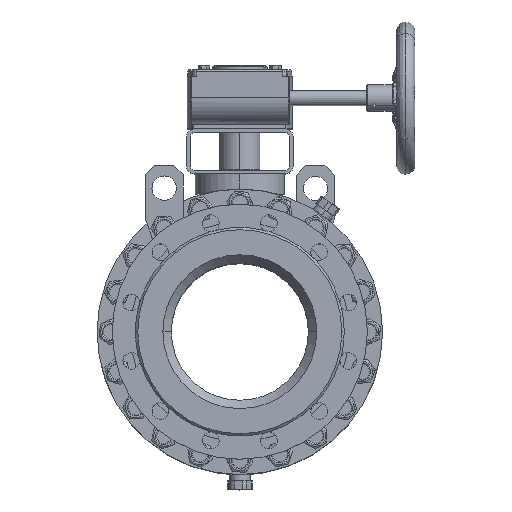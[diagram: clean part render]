
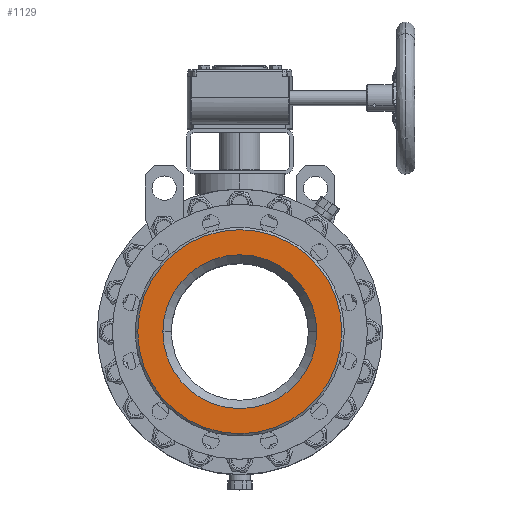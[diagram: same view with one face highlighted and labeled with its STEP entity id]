
A CAD part, top view. The second image highlights one B-rep face of the part: STEP entity #1129.
In plain terms, the highlighted planar face has unit normal (0, 0, 1).
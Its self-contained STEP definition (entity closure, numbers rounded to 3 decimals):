
#1129=ADVANCED_FACE('',(#4650,#4652),#4654,.T.);
#4650=FACE_BOUND('',#4651,.T.);
#4651=EDGE_LOOP('',(#49044,#49045));
#4652=FACE_OUTER_BOUND('',#4653,.T.);
#4653=EDGE_LOOP('',(#49046,#49047));
#4654=PLANE('',#4655);
#4655=AXIS2_PLACEMENT_3D('',#4656,#4657,#4658);
#4656=CARTESIAN_POINT('',(0.,0.,226.));
#4657=DIRECTION('',(0.,0.,1.));
#4658=DIRECTION('',(1.,0.,0.));
#49044=ORIENTED_EDGE('',*,*,#56583,.F.);
#49045=ORIENTED_EDGE('',*,*,#56584,.F.);
#49046=ORIENTED_EDGE('',*,*,#56585,.T.);
#49047=ORIENTED_EDGE('',*,*,#56586,.T.);
#56583=EDGE_CURVE('',#61227,#61228,#61229,.T.);
#56584=EDGE_CURVE('',#61228,#61227,#61230,.T.);
#56585=EDGE_CURVE('',#61231,#61232,#61233,.T.);
#56586=EDGE_CURVE('',#61232,#61231,#61234,.T.);
#61227=VERTEX_POINT('',#69942);
#61228=VERTEX_POINT('',#69943);
#61229=CIRCLE('',#69944,101.);
#61230=CIRCLE('',#69948,101.);
#61231=VERTEX_POINT('',#69952);
#61232=VERTEX_POINT('',#69953);
#61233=CIRCLE('',#69954,134.);
#61234=CIRCLE('',#69958,134.);
#69942=CARTESIAN_POINT('',(101.,0.,226.));
#69943=CARTESIAN_POINT('',(-101.,0.,226.));
#69944=AXIS2_PLACEMENT_3D('',#69945,#69946,#69947);
#69945=CARTESIAN_POINT('',(0.,0.,226.));
#69946=DIRECTION('',(0.,0.,1.));
#69947=DIRECTION('',(1.,0.,0.));
#69948=AXIS2_PLACEMENT_3D('',#69949,#69950,#69951);
#69949=CARTESIAN_POINT('',(0.,0.,226.));
#69950=DIRECTION('',(0.,0.,1.));
#69951=DIRECTION('',(-1.,0.,0.));
#69952=CARTESIAN_POINT('',(134.,0.,226.));
#69953=CARTESIAN_POINT('',(-134.,0.,226.));
#69954=AXIS2_PLACEMENT_3D('',#69955,#69956,#69957);
#69955=CARTESIAN_POINT('',(0.,0.,226.));
#69956=DIRECTION('',(0.,0.,1.));
#69957=DIRECTION('',(1.,0.,0.));
#69958=AXIS2_PLACEMENT_3D('',#69959,#69960,#69961);
#69959=CARTESIAN_POINT('',(0.,0.,226.));
#69960=DIRECTION('',(0.,0.,1.));
#69961=DIRECTION('',(-1.,0.,0.));
